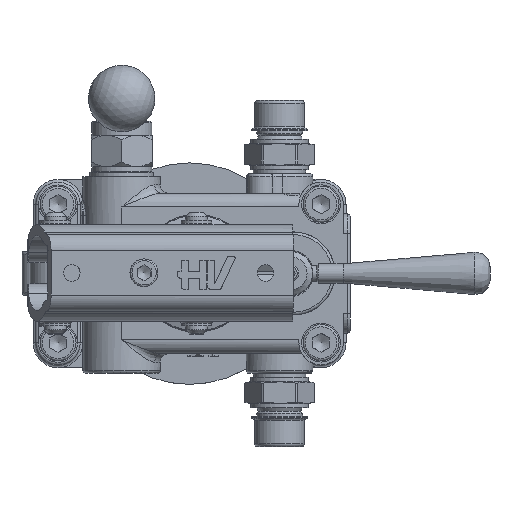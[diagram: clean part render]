
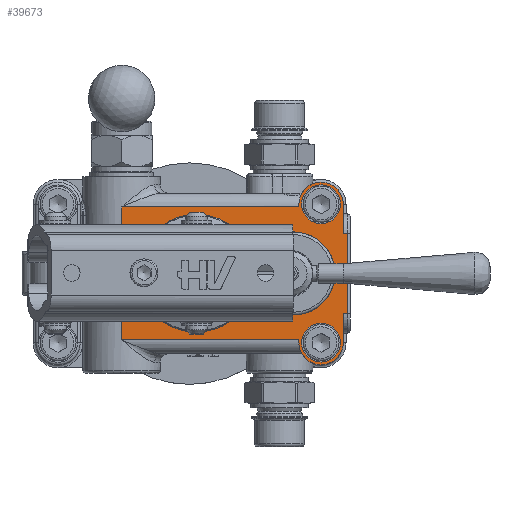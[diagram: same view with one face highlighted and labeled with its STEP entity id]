
A CAD part, top view. The second image highlights one B-rep face of the part: STEP entity #39673.
In plain terms, the highlighted planar face has unit normal (0, 0, 1).
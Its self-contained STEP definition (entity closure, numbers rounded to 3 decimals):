
#18338=CARTESIAN_POINT('',(66.338,51.528,43.));
#18339=VERTEX_POINT('',#18338);
#18340=CARTESIAN_POINT('',(59.,34.,43.));
#18341=DIRECTION('',(0.,0.,-1.0));
#18342=DIRECTION('',(-0.386,-0.922,0.));
#18343=AXIS2_PLACEMENT_3D('',#18340,#18341,#18342);
#18344=CIRCLE('',#18343,19.002);
#18345=EDGE_CURVE('',#18339,#18339,#18344,.T.);
#38016=CARTESIAN_POINT('',(96.,58.,43.));
#38017=VERTEX_POINT('',#38016);
#38025=CARTESIAN_POINT('',(96.,59.,43.));
#38026=VERTEX_POINT('',#38025);
#38027=CARTESIAN_POINT('',(96.,58.,43.));
#38028=DIRECTION('',(0.0,1.0,0.0));
#38029=VECTOR('',#38028,1.);
#38030=LINE('',#38027,#38029);
#38031=EDGE_CURVE('',#38017,#38026,#38030,.T.);
#38047=CARTESIAN_POINT('',(96.0,10.0,43.));
#38048=VERTEX_POINT('',#38047);
#38058=CARTESIAN_POINT('',(96.0,9.,43.));
#38059=VERTEX_POINT('',#38058);
#38066=CARTESIAN_POINT('',(96.,9.,43.));
#38067=DIRECTION('',(0.0,1.0,0.0));
#38068=VECTOR('',#38067,1.);
#38069=LINE('',#38066,#38068);
#38070=EDGE_CURVE('',#38059,#38048,#38069,.T.);
#38229=CARTESIAN_POINT('',(32.,44.122,43.));
#38230=VERTEX_POINT('',#38229);
#38279=CARTESIAN_POINT('',(33.732,41.0,43.));
#38280=VERTEX_POINT('',#38279);
#38288=CARTESIAN_POINT('',(33.732,41.0,43.));
#38289=CARTESIAN_POINT('',(33.732,41.528,43.));
#38290=CARTESIAN_POINT('',(33.438,42.767,43.));
#38291=CARTESIAN_POINT('',(32.582,43.719,43.));
#38292=CARTESIAN_POINT('',(32.,44.122,43.));
#38293=B_SPLINE_CURVE_WITH_KNOTS('',3,(#38288,#38289,#38290,#38291,#38292),.UNSPECIFIED.,.F.,.U.,(4,1,4),(2.696,2.855,3.066),.UNSPECIFIED.);
#38294=EDGE_CURVE('',#38280,#38230,#38293,.T.);
#38306=CARTESIAN_POINT('',(33.732,27.,43.));
#38307=VERTEX_POINT('',#38306);
#38315=CARTESIAN_POINT('',(33.732,27.,43.));
#38316=DIRECTION('',(0.0,1.0,0.0));
#38317=VECTOR('',#38316,14.);
#38318=LINE('',#38315,#38317);
#38319=EDGE_CURVE('',#38307,#38280,#38318,.T.);
#38352=CARTESIAN_POINT('',(32.,23.878,43.));
#38353=VERTEX_POINT('',#38352);
#38361=CARTESIAN_POINT('',(32.,23.878,43.));
#38362=CARTESIAN_POINT('',(32.433,24.178,43.));
#38363=CARTESIAN_POINT('',(33.336,25.067,43.));
#38364=CARTESIAN_POINT('',(33.732,26.29,43.0));
#38365=CARTESIAN_POINT('',(33.732,27.,43.));
#38366=B_SPLINE_CURVE_WITH_KNOTS('',3,(#38361,#38362,#38363,#38364,#38365),.UNSPECIFIED.,.F.,.U.,(4,1,4),(2.696,2.854,3.065),.UNSPECIFIED.);
#38367=EDGE_CURVE('',#38353,#38307,#38366,.T.);
#39071=CARTESIAN_POINT('',(112.0,59.,43.));
#39072=VERTEX_POINT('',#39071);
#39079=CARTESIAN_POINT('',(112.,48.5,43.));
#39080=VERTEX_POINT('',#39079);
#39081=CARTESIAN_POINT('',(112.0,59.,43.));
#39082=DIRECTION('',(0.0,-1.0,0.0));
#39083=VECTOR('',#39082,10.5);
#39084=LINE('',#39081,#39083);
#39085=EDGE_CURVE('',#39072,#39080,#39084,.T.);
#39200=CARTESIAN_POINT('',(112.0,19.5,43.));
#39201=VERTEX_POINT('',#39200);
#39209=CARTESIAN_POINT('',(112.,9.,43.));
#39210=VERTEX_POINT('',#39209);
#39211=CARTESIAN_POINT('',(112.,19.5,43.));
#39212=DIRECTION('',(0.0,-1.0,0.0));
#39213=VECTOR('',#39212,10.5);
#39214=LINE('',#39211,#39213);
#39215=EDGE_CURVE('',#39201,#39210,#39214,.T.);
#39538=CARTESIAN_POINT('',(113.5,48.5,43.));
#39539=VERTEX_POINT('',#39538);
#39549=CARTESIAN_POINT('',(112.,48.5,43.));
#39550=DIRECTION('',(1.0,0.0,0.0));
#39551=VECTOR('',#39550,1.5);
#39552=LINE('',#39549,#39551);
#39553=EDGE_CURVE('',#39080,#39539,#39552,.T.);
#39558=CARTESIAN_POINT('',(104.,34.,43.));
#39559=DIRECTION('',(0.0,0.0,1.0));
#39560=DIRECTION('',(1.0,0.0,0.0));
#39561=AXIS2_PLACEMENT_3D('',#39558,#39559,#39560);
#39562=PLANE('',#39561);
#39563=CARTESIAN_POINT('',(113.5,19.5,43.));
#39564=VERTEX_POINT('',#39563);
#39565=CARTESIAN_POINT('',(113.5,48.5,43.));
#39566=DIRECTION('',(0.0,-1.0,0.0));
#39567=VECTOR('',#39566,29.);
#39568=LINE('',#39565,#39567);
#39569=EDGE_CURVE('',#39539,#39564,#39568,.T.);
#39570=ORIENTED_EDGE('',*,*,#39569,.F.);
#39571=ORIENTED_EDGE('',*,*,#39553,.F.);
#39572=ORIENTED_EDGE('',*,*,#39085,.F.);
#39573=CARTESIAN_POINT('',(104.,59.,43.));
#39574=DIRECTION('',(0.0,0.0,-1.0));
#39575=DIRECTION('',(1.0,0.0,0.0));
#39576=AXIS2_PLACEMENT_3D('',#39573,#39574,#39575);
#39577=CIRCLE('',#39576,8.0);
#39578=EDGE_CURVE('',#38026,#39072,#39577,.T.);
#39579=ORIENTED_EDGE('',*,*,#39578,.F.);
#39580=ORIENTED_EDGE('',*,*,#38031,.F.);
#39581=CARTESIAN_POINT('',(32.,58.,43.));
#39582=VERTEX_POINT('',#39581);
#39583=CARTESIAN_POINT('',(96.,58.,43.));
#39584=DIRECTION('',(-1.0,0.0,0.0));
#39585=VECTOR('',#39584,64.);
#39586=LINE('',#39583,#39585);
#39587=EDGE_CURVE('',#38017,#39582,#39586,.T.);
#39588=ORIENTED_EDGE('',*,*,#39587,.T.);
#39589=CARTESIAN_POINT('',(32.0,44.122,43.0));
#39590=DIRECTION('',(0.0,1.0,0.0));
#39591=VECTOR('',#39590,13.878);
#39592=LINE('',#39589,#39591);
#39593=EDGE_CURVE('',#38230,#39582,#39592,.T.);
#39594=ORIENTED_EDGE('',*,*,#39593,.F.);
#39595=ORIENTED_EDGE('',*,*,#38294,.F.);
#39596=ORIENTED_EDGE('',*,*,#38319,.F.);
#39597=ORIENTED_EDGE('',*,*,#38367,.F.);
#39598=CARTESIAN_POINT('',(32.,10.0,43.));
#39599=VERTEX_POINT('',#39598);
#39600=CARTESIAN_POINT('',(32.0,10.,43.0));
#39601=DIRECTION('',(0.0,1.0,0.0));
#39602=VECTOR('',#39601,13.878);
#39603=LINE('',#39600,#39602);
#39604=EDGE_CURVE('',#39599,#38353,#39603,.T.);
#39605=ORIENTED_EDGE('',*,*,#39604,.F.);
#39606=CARTESIAN_POINT('',(96.0,10.0,43.));
#39607=DIRECTION('',(-1.0,0.0,0.0));
#39608=VECTOR('',#39607,64.);
#39609=LINE('',#39606,#39608);
#39610=EDGE_CURVE('',#38048,#39599,#39609,.T.);
#39611=ORIENTED_EDGE('',*,*,#39610,.F.);
#39612=ORIENTED_EDGE('',*,*,#38070,.F.);
#39613=CARTESIAN_POINT('',(104.0,9.,43.));
#39614=DIRECTION('',(0.0,0.0,-1.0));
#39615=DIRECTION('',(-1.0,0.0,0.0));
#39616=AXIS2_PLACEMENT_3D('',#39613,#39614,#39615);
#39617=CIRCLE('',#39616,8.0);
#39618=EDGE_CURVE('',#39210,#38059,#39617,.T.);
#39619=ORIENTED_EDGE('',*,*,#39618,.F.);
#39620=ORIENTED_EDGE('',*,*,#39215,.F.);
#39621=CARTESIAN_POINT('',(112.0,19.5,43.));
#39622=DIRECTION('',(1.0,0.0,0.0));
#39623=VECTOR('',#39622,1.5);
#39624=LINE('',#39621,#39623);
#39625=EDGE_CURVE('',#39201,#39564,#39624,.T.);
#39626=ORIENTED_EDGE('',*,*,#39625,.T.);
#39627=EDGE_LOOP('',(#39570,#39571,#39572,#39579,#39580,#39588,#39594,#39595,#39596,#39597,#39605,#39611,#39612,#39619,#39620,#39626));
#39628=FACE_OUTER_BOUND('',#39627,.T.);
#39629=ORIENTED_EDGE('',*,*,#18345,.T.);
#39630=EDGE_LOOP('',(#39629));
#39631=FACE_BOUND('',#39630,.T.);
#39632=CARTESIAN_POINT('',(111.,59.,43.));
#39633=VERTEX_POINT('',#39632);
#39634=CARTESIAN_POINT('',(104.,59.,43.));
#39635=DIRECTION('',(0.0,0.0,-1.0));
#39636=DIRECTION('',(1.0,0.0,0.0));
#39637=AXIS2_PLACEMENT_3D('',#39634,#39635,#39636);
#39638=CIRCLE('',#39637,7.);
#39639=EDGE_CURVE('',#39633,#39633,#39638,.T.);
#39640=ORIENTED_EDGE('',*,*,#39639,.T.);
#39641=EDGE_LOOP('',(#39640));
#39642=FACE_BOUND('',#39641,.T.);
#39643=CARTESIAN_POINT('',(111.0,9.,43.));
#39644=VERTEX_POINT('',#39643);
#39645=CARTESIAN_POINT('',(104.0,9.,43.));
#39646=DIRECTION('',(0.0,0.0,-1.0));
#39647=DIRECTION('',(1.0,0.0,0.0));
#39648=AXIS2_PLACEMENT_3D('',#39645,#39646,#39647);
#39649=CIRCLE('',#39648,7.);
#39650=EDGE_CURVE('',#39644,#39644,#39649,.T.);
#39651=ORIENTED_EDGE('',*,*,#39650,.T.);
#39652=EDGE_LOOP('',(#39651));
#39653=FACE_BOUND('',#39652,.T.);
#39654=CARTESIAN_POINT('',(83.0,44.198,43.));
#39655=VERTEX_POINT('',#39654);
#39656=CARTESIAN_POINT('',(83.0,23.802,43.));
#39657=VERTEX_POINT('',#39656);
#39658=CARTESIAN_POINT('',(94.,34.0,43.));
#39659=DIRECTION('',(0.0,0.0,-1.0));
#39660=DIRECTION('',(-1.0,0.0,0.0));
#39661=AXIS2_PLACEMENT_3D('',#39658,#39659,#39660);
#39662=CIRCLE('',#39661,15.0);
#39663=EDGE_CURVE('',#39655,#39657,#39662,.T.);
#39664=ORIENTED_EDGE('',*,*,#39663,.T.);
#39665=CARTESIAN_POINT('',(83.0,23.802,43.));
#39666=DIRECTION('',(0.0,1.0,0.0));
#39667=VECTOR('',#39666,20.396);
#39668=LINE('',#39665,#39667);
#39669=EDGE_CURVE('',#39657,#39655,#39668,.T.);
#39670=ORIENTED_EDGE('',*,*,#39669,.T.);
#39671=EDGE_LOOP('',(#39664,#39670));
#39672=FACE_BOUND('',#39671,.T.);
#39673=ADVANCED_FACE('',(#39628,#39631,#39642,#39653,#39672),#39562,.T.);
